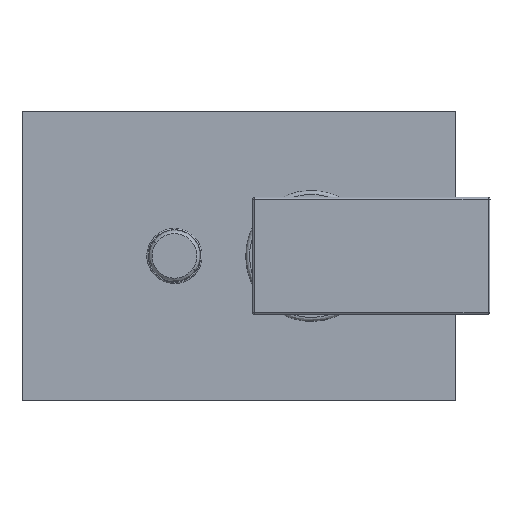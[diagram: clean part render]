
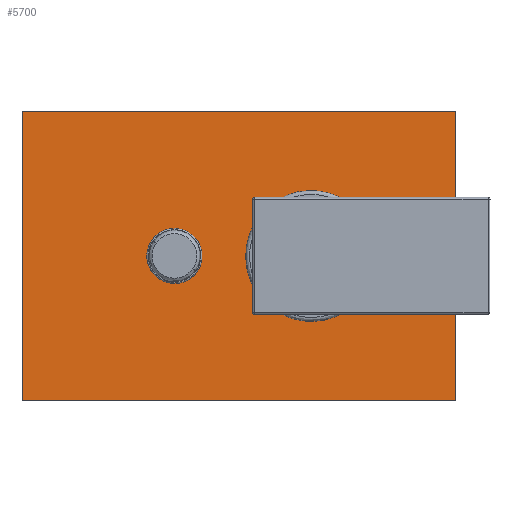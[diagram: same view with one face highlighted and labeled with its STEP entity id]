
A CAD part, top view. The second image highlights one B-rep face of the part: STEP entity #5700.
In plain terms, the highlighted planar face has unit normal (0, 0, 1).
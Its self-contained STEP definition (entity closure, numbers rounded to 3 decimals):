
#49 = ORIENTED_EDGE ( 'NONE', *, *, #6151, .F. ) ;
#149 = EDGE_CURVE ( 'NONE', #6052, #2411, #778, .T. ) ;
#335 = EDGE_CURVE ( 'NONE', #3075, #5203, #2237, .T. ) ;
#366 = CIRCLE ( 'NONE', #4996, 10.5 ) ;
#387 = DIRECTION ( 'NONE',  ( -0.924, -0.383, 0. ) ) ;
#413 = CIRCLE ( 'NONE', #2024, 24.9 ) ;
#486 = CARTESIAN_POINT ( 'NONE',  ( 4.25, 34.825, 28.753 ) ) ;
#778 = LINE ( 'NONE', #2299, #4575 ) ;
#885 = LINE ( 'NONE', #986, #5766 ) ;
#986 = CARTESIAN_POINT ( 'NONE',  ( -105.75, 89.825, 28.753 ) ) ;
#998 = ORIENTED_EDGE ( 'NONE', *, *, #6292, .F. ) ;
#1013 = FACE_BOUND ( 'NONE', #4698, .T. ) ;
#1146 = CARTESIAN_POINT ( 'NONE',  ( -105.75, -20.175, 28.753 ) ) ;
#1198 = CARTESIAN_POINT ( 'NONE',  ( 27.251, 44.363, 28.753 ) ) ;
#1228 = DIRECTION ( 'NONE',  ( 1., 0., 0. ) ) ;
#1404 = DIRECTION ( 'NONE',  ( 0., 0., -1. ) ) ;
#1621 = ORIENTED_EDGE ( 'NONE', *, *, #3707, .F. ) ;
#1738 = ORIENTED_EDGE ( 'NONE', *, *, #335, .T. ) ;
#2024 = AXIS2_PLACEMENT_3D ( 'NONE', #6086, #3522, #3593 ) ;
#2066 = CARTESIAN_POINT ( 'NONE',  ( -57.206, 30.26, 28.753 ) ) ;
#2237 = CIRCLE ( 'NONE', #5648, 24.9 ) ;
#2299 = CARTESIAN_POINT ( 'NONE',  ( 59.25, -20.175, 28.753 ) ) ;
#2304 = DIRECTION ( 'NONE',  ( 0., 0., 1. ) ) ;
#2411 = VERTEX_POINT ( 'NONE', #4452 ) ;
#2493 = VECTOR ( 'NONE', #5182, 1000. ) ;
#2512 = EDGE_LOOP ( 'NONE', ( #998, #5890, #4965, #6089 ) ) ;
#2660 = EDGE_CURVE ( 'NONE', #5203, #3075, #413, .T. ) ;
#2709 = CARTESIAN_POINT ( 'NONE',  ( -38.295, 39.39, 28.753 ) ) ;
#2839 = DIRECTION ( 'NONE',  ( -1., 0., 0. ) ) ;
#2974 = CARTESIAN_POINT ( 'NONE',  ( -105.75, 89.825, 28.753 ) ) ;
#3046 = DIRECTION ( 'NONE',  ( 1., 0., 0. ) ) ;
#3075 = VERTEX_POINT ( 'NONE', #1198 ) ;
#3205 = LINE ( 'NONE', #3374, #3866 ) ;
#3374 = CARTESIAN_POINT ( 'NONE',  ( 59.25, 89.825, 28.753 ) ) ;
#3522 = DIRECTION ( 'NONE',  ( 0., 0., -1. ) ) ;
#3593 = DIRECTION ( 'NONE',  ( -0.924, -0.383, 0. ) ) ;
#3679 = DIRECTION ( 'NONE',  ( 1., 0., 0. ) ) ;
#3699 = VERTEX_POINT ( 'NONE', #3743 ) ;
#3707 = EDGE_CURVE ( 'NONE', #5728, #3923, #366, .T. ) ;
#3743 = CARTESIAN_POINT ( 'NONE',  ( 59.25, 89.825, 28.753 ) ) ;
#3767 = EDGE_CURVE ( 'NONE', #2411, #4251, #5833, .T. ) ;
#3801 = ORIENTED_EDGE ( 'NONE', *, *, #2660, .T. ) ;
#3866 = VECTOR ( 'NONE', #5369, 1000. ) ;
#3923 = VERTEX_POINT ( 'NONE', #2066 ) ;
#4092 = PLANE ( 'NONE',  #6599 ) ;
#4251 = VERTEX_POINT ( 'NONE', #2974 ) ;
#4288 = DIRECTION ( 'NONE',  ( 0., 0., 1. ) ) ;
#4452 = CARTESIAN_POINT ( 'NONE',  ( -105.75, -20.175, 28.753 ) ) ;
#4458 = CARTESIAN_POINT ( 'NONE',  ( 59.25, -20.175, 28.753 ) ) ;
#4575 = VECTOR ( 'NONE', #2839, 1000. ) ;
#4580 = FACE_OUTER_BOUND ( 'NONE', #2512, .T. ) ;
#4687 = CARTESIAN_POINT ( 'NONE',  ( 59.25, -20.175, 28.753 ) ) ;
#4698 = EDGE_LOOP ( 'NONE', ( #49, #1621 ) ) ;
#4781 = CARTESIAN_POINT ( 'NONE',  ( -47.75, 34.825, 28.753 ) ) ;
#4965 = ORIENTED_EDGE ( 'NONE', *, *, #149, .F. ) ;
#4996 = AXIS2_PLACEMENT_3D ( 'NONE', #4781, #4288, #3679 ) ;
#5016 = FACE_BOUND ( 'NONE', #5280, .T. ) ;
#5182 = DIRECTION ( 'NONE',  ( 0., 1., 0. ) ) ;
#5203 = VERTEX_POINT ( 'NONE', #6159 ) ;
#5249 = DIRECTION ( 'NONE',  ( -1., 0., 0. ) ) ;
#5280 = EDGE_LOOP ( 'NONE', ( #1738, #3801 ) ) ;
#5308 = DIRECTION ( 'NONE',  ( 0., 0., 1. ) ) ;
#5369 = DIRECTION ( 'NONE',  ( 0., -1., 0. ) ) ;
#5648 = AXIS2_PLACEMENT_3D ( 'NONE', #486, #1404, #387 ) ;
#5700 = ADVANCED_FACE ( 'NONE', ( #1013, #5016, #4580 ), #4092, .T. ) ;
#5728 = VERTEX_POINT ( 'NONE', #2709 ) ;
#5766 = VECTOR ( 'NONE', #3046, 1000. ) ;
#5822 = CARTESIAN_POINT ( 'NONE',  ( -47.75, 34.825, 28.753 ) ) ;
#5833 = LINE ( 'NONE', #1146, #2493 ) ;
#5890 = ORIENTED_EDGE ( 'NONE', *, *, #3767, .F. ) ;
#5982 = CIRCLE ( 'NONE', #6512, 10.5 ) ;
#6052 = VERTEX_POINT ( 'NONE', #4458 ) ;
#6086 = CARTESIAN_POINT ( 'NONE',  ( 4.25, 34.825, 28.753 ) ) ;
#6089 = ORIENTED_EDGE ( 'NONE', *, *, #6368, .F. ) ;
#6151 = EDGE_CURVE ( 'NONE', #3923, #5728, #5982, .T. ) ;
#6159 = CARTESIAN_POINT ( 'NONE',  ( -18.751, 25.287, 28.753 ) ) ;
#6292 = EDGE_CURVE ( 'NONE', #4251, #3699, #885, .T. ) ;
#6368 = EDGE_CURVE ( 'NONE', #3699, #6052, #3205, .T. ) ;
#6512 = AXIS2_PLACEMENT_3D ( 'NONE', #5822, #2304, #1228 ) ;
#6599 = AXIS2_PLACEMENT_3D ( 'NONE', #4687, #5308, #5249 ) ;
